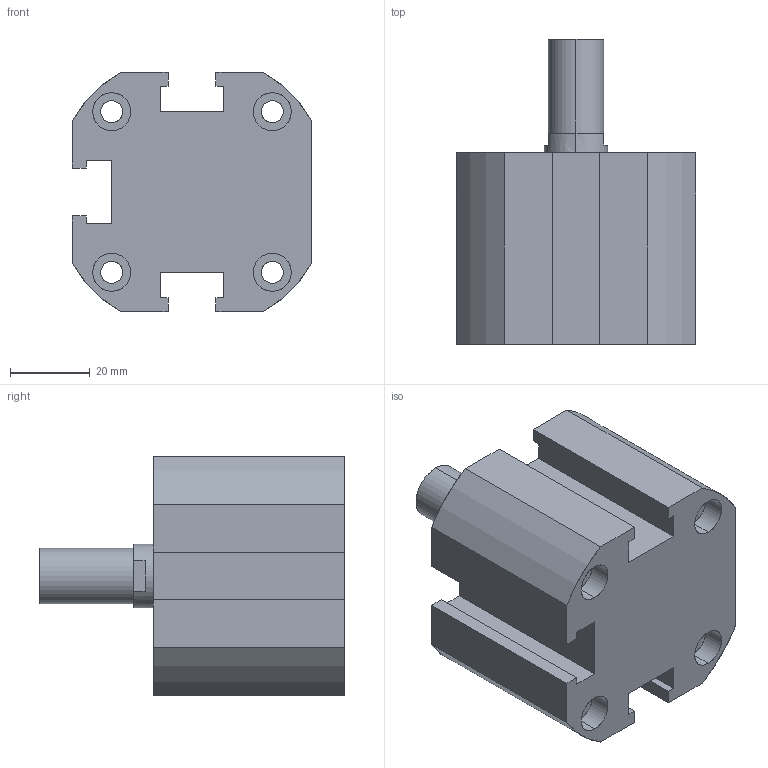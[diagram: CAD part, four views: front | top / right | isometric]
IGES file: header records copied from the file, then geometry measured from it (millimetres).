
Start section: SolidWorks IGES file using analytic representation for surfaces
Global section: file name: C:\Users\Toshiba\Desktop\XG#M2-40D-10.IGS; native system: SolidWorks 2014; preprocessor: SolidWorks 2014; author: Toshiba; date: 160524.101820; units: millimetre
Bounding box: 60 x 76.5 x 60 mm (x, y, z)
Surface area: 26121.1 mm2 (no closed solid volume)
Topology: 0 solids, 0 shells, 114 faces, 2044 edges, 2040 vertices
Faces by surface type: revolution 62, bspline 52
